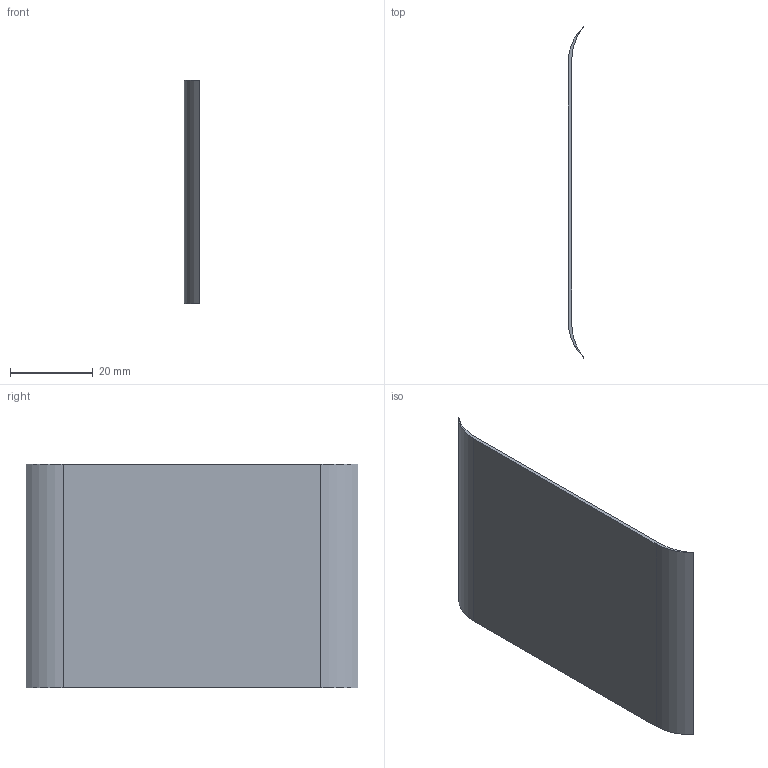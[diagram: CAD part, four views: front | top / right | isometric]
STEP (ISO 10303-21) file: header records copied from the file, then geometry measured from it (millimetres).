
FILE_DESCRIPTION(('Open CASCADE Model'),'2;1');
FILE_NAME('Open CASCADE Shape Model','2026-11-05T01:47:41',('Author'),( 'Open CASCADE'),'Open CASCADE STEP processor 7.8','Open CASCADE 7.8' ,'Unknown');
FILE_SCHEMA(('AUTOMOTIVE_DESIGN { 1 0 10303 214 1 1 1 1 }'));
Length unit declared in the file: millimetre
Products named in the file (1): Open CASCADE STEP translator 7.8 2
Bounding box: 3.83 x 80.23 x 54 mm (x, y, z)
Volume: 3589.2 mm3; surface area: 8984.6 mm2
Topology: 1 solids, 1 shells, 10 faces, 24 edges, 16 vertices
Faces by surface type: cylinder 6, plane 4
Entity records: 652 total; most frequent: CARTESIAN_POINT 159, DIRECTION 96, ORIENTED_EDGE 48, PCURVE 48, DEFINITIONAL_REPRESENTATION 48, LINE 48, VECTOR 48, EDGE_CURVE 24
